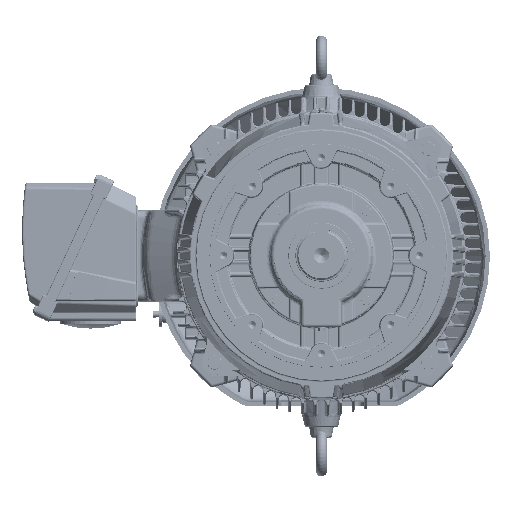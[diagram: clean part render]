
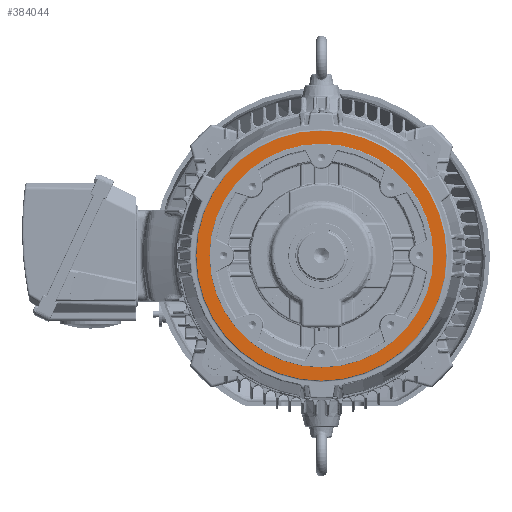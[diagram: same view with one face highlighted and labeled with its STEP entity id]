
A CAD part, top view. The second image highlights one B-rep face of the part: STEP entity #384044.
In plain terms, the highlighted planar face has unit normal (0, 0, 1).
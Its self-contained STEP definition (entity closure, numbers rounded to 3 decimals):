
#20092 = DIRECTION ( 'NONE',  ( -1., 0., 0. ) ) ;
#29258 = DIRECTION ( 'NONE',  ( -1., 0., 0. ) ) ;
#33053 = CARTESIAN_POINT ( 'NONE',  ( 0., 8., 16.713 ) ) ;
#38062 = CARTESIAN_POINT ( 'NONE',  ( 0., 0., 16.713 ) ) ;
#38890 = PLANE ( 'NONE',  #540364 ) ;
#52468 = EDGE_LOOP ( 'NONE', ( #284399, #574300 ) ) ;
#73738 = CARTESIAN_POINT ( 'NONE',  ( 0., 0., 16.713 ) ) ;
#77734 = VERTEX_POINT ( 'NONE', #393024 ) ;
#78646 = EDGE_LOOP ( 'NONE', ( #358080, #189811 ) ) ;
#92270 = DIRECTION ( 'NONE',  ( 0., 0., 1. ) ) ;
#115852 = CARTESIAN_POINT ( 'NONE',  ( 0., 0., 16.713 ) ) ;
#146472 = CIRCLE ( 'NONE', #383568, 8. ) ;
#155792 = CIRCLE ( 'NONE', #165087, 8.937 ) ;
#165087 = AXIS2_PLACEMENT_3D ( 'NONE', #426414, #92270, #20092 ) ;
#169463 = DIRECTION ( 'NONE',  ( -1., 0., 0. ) ) ;
#169586 = EDGE_CURVE ( 'NONE', #77734, #343989, #155792, .T. ) ;
#181947 = CARTESIAN_POINT ( 'NONE',  ( -8., 0., 16.713 ) ) ;
#185028 = EDGE_CURVE ( 'NONE', #226142, #560827, #146472, .T. ) ;
#186222 = EDGE_CURVE ( 'NONE', #343989, #77734, #346285, .T. ) ;
#189811 = ORIENTED_EDGE ( 'NONE', *, *, #169586, .T. ) ;
#226142 = VERTEX_POINT ( 'NONE', #181947 ) ;
#235693 = EDGE_CURVE ( 'NONE', #560827, #226142, #251029, .T. ) ;
#251029 = CIRCLE ( 'NONE', #373811, 8. ) ;
#257616 = DIRECTION ( 'NONE',  ( 0., 0., 1. ) ) ;
#258452 = FACE_OUTER_BOUND ( 'NONE', #78646, .T. ) ;
#258802 = CARTESIAN_POINT ( 'NONE',  ( 8., 0., 16.713 ) ) ;
#284399 = ORIENTED_EDGE ( 'NONE', *, *, #185028, .T. ) ;
#343989 = VERTEX_POINT ( 'NONE', #498157 ) ;
#346285 = CIRCLE ( 'NONE', #507148, 8.937 ) ;
#358080 = ORIENTED_EDGE ( 'NONE', *, *, #186222, .T. ) ;
#373811 = AXIS2_PLACEMENT_3D ( 'NONE', #115852, #525017, #436121 ) ;
#383568 = AXIS2_PLACEMENT_3D ( 'NONE', #73738, #435596, #29258 ) ;
#384044 = ADVANCED_FACE ( 'NONE', ( #258452, #439371 ), #38890, .F. ) ;
#393024 = CARTESIAN_POINT ( 'NONE',  ( 8.937, 0., 16.713 ) ) ;
#426414 = CARTESIAN_POINT ( 'NONE',  ( 0., 0., 16.713 ) ) ;
#435596 = DIRECTION ( 'NONE',  ( 0., 0., -1. ) ) ;
#436121 = DIRECTION ( 'NONE',  ( -1., 0., 0. ) ) ;
#439371 = FACE_BOUND ( 'NONE', #52468, .T. ) ;
#498157 = CARTESIAN_POINT ( 'NONE',  ( -8.937, 0., 16.713 ) ) ;
#507148 = AXIS2_PLACEMENT_3D ( 'NONE', #38062, #257616, #539168 ) ;
#525017 = DIRECTION ( 'NONE',  ( 0., 0., -1. ) ) ;
#539168 = DIRECTION ( 'NONE',  ( -1., 0., 0. ) ) ;
#540364 = AXIS2_PLACEMENT_3D ( 'NONE', #33053, #575752, #169463 ) ;
#560827 = VERTEX_POINT ( 'NONE', #258802 ) ;
#574300 = ORIENTED_EDGE ( 'NONE', *, *, #235693, .T. ) ;
#575752 = DIRECTION ( 'NONE',  ( 0., 0., -1. ) ) ;
